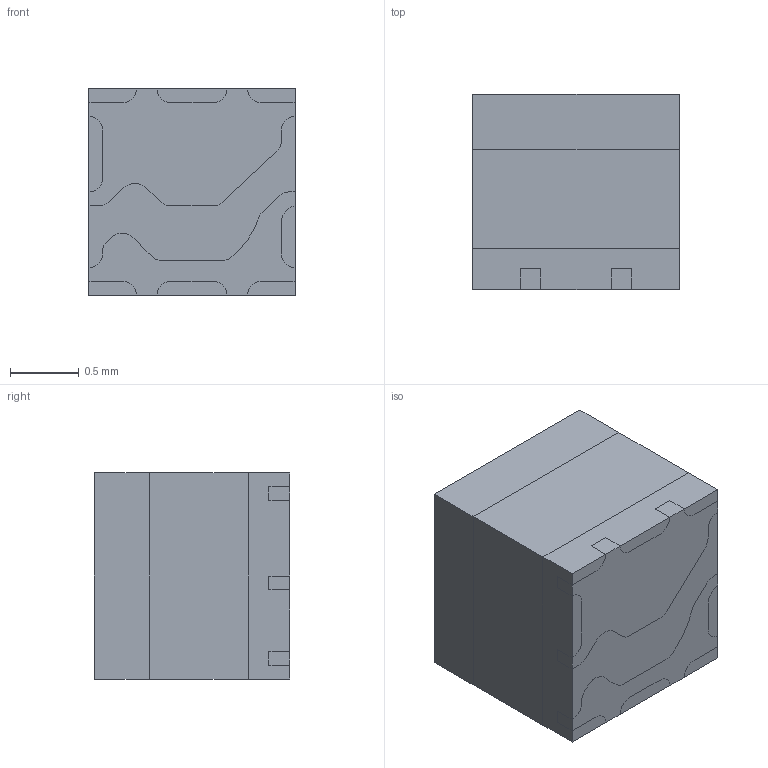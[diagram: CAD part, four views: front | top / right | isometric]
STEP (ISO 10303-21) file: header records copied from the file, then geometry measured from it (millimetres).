
FILE_DESCRIPTION (( 'STEP AP214' ), '1' );
FILE_NAME ('LYR.STEP', '2025-05-12T11:01:13', ( '' ), ( '' ), 'SwSTEP 2.0', 'SolidWorks 2022', '' );
FILE_SCHEMA (( 'AUTOMOTIVE_DESIGN' ));
Length unit declared in the file: millimetre
Products named in the file (1): LYR
Bounding box: 1.5 x 1.42 x 1.5 mm (x, y, z)
Volume: 3.2 mm3; surface area: 28.1 mm2
Topology: 5 solids, 5 shells, 191 faces, 532 edges, 352 vertices
Faces by surface type: plane 105, cylinder 86
Entity records: 8349 total; most frequent: DIRECTION 1092, CARTESIAN_POINT 1076, ORIENTED_EDGE 1064, EDGE_CURVE 532, AXIS2_PLACEMENT_3D 368, VECTOR 356, LINE 356, VERTEX_POINT 352
